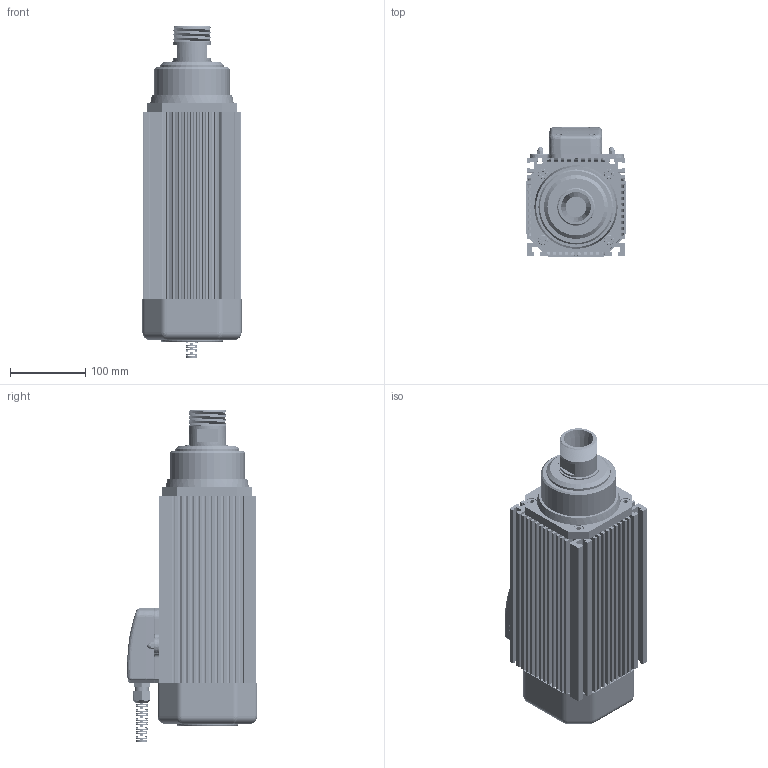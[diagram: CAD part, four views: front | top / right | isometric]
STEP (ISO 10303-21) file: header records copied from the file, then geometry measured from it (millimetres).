
FILE_DESCRIPTION (( 'STEP AP203' ), '1' );
FILE_NAME ('ARFM.4K-L ER 40.STEP', '2022-04-04T11:59:40', ( '' ), ( '' ), 'SwSTEP 2.0', 'SolidWorks 2014', '' );
FILE_SCHEMA (( 'CONFIG_CONTROL_DESIGN' ));
Length unit declared in the file: millimetre
Products named in the file (22): M8x20 inpus_96144A215; Somun M5 K顤; rekor1; Arfm.4T Takým Deðiþtirmeli Ön Kapak; Somun M5_90592A095; klemens kutusu montaj tabansýz; 471-50 Sekman_98541A167; Klemens Kutusu  alt tabansýz; Arfm.4K-L Gövdesi; ARFM.4K-L ER 40; M4x10 inpus_91290A176; rekor2; Arfm.4T Takým Deðiþtirmeli Ön Toz Kapak; no1 motor klemensi; 4K Klemens Kutusu Montaj; Arfm.4K Plastik Klemens Altlýk; Klemens Kutusu Kapaðý Kademeli; Arfm.4K Plastik Tas Kapak; Yukseltme Parcasi; rekor3; Arfm.4K Rotor Mili ER 40; M5x10 inpus_91290A252
Assembly tree (38 placements, depth 4):
  ARFM.4K-L ER 40
    Arfm.4K-L Gövdesi
    Arfm.4K Plastik Tas Kapak
    Arfm.4T Takým Deðiþtirmeli Ön Kapak
    Arfm.4T Takým Deðiþtirmeli Ön Toz Kapak
    Arfm.4K Rotor Mili ER 40
    471-50 Sekman_98541A167
    4K Klemens Kutusu Montaj
      Arfm.4K Plastik Klemens Altlýk
      Somun M5 K顤  x3
      M4x10 inpus_91290A176  x4
      Yukseltme Parcasi  x4
      Somun M5_90592A095  x6
      no1 motor klemensi
      M5x10 inpus_91290A252  x2
      klemens kutusu montaj tabansýz
        Klemens Kutusu  alt tabansýz
        Klemens Kutusu Kapaðý Kademeli
        rekor1
        rekor2
        rekor3
    M8x20 inpus_96144A215  x4
Bounding box: 132 x 172.94 x 442.01 mm (x, y, z)
Volume: 1923801.6 mm3; surface area: 742930.6 mm2
Topology: 54 solids, 54 shells, 3799 faces, 10295 edges, 6595 vertices
Faces by surface type: cylinder 1675, plane 1370, cone 542, bspline 137, torus 45, sphere 30
Entity records: 104423 total; most frequent: CARTESIAN_POINT 34606, ORIENTED_EDGE 14840, DIRECTION 13147, EDGE_CURVE 7420, VERTEX_POINT 4785, AXIS2_PLACEMENT_3D 4595, LINE 3957, VECTOR 3957
